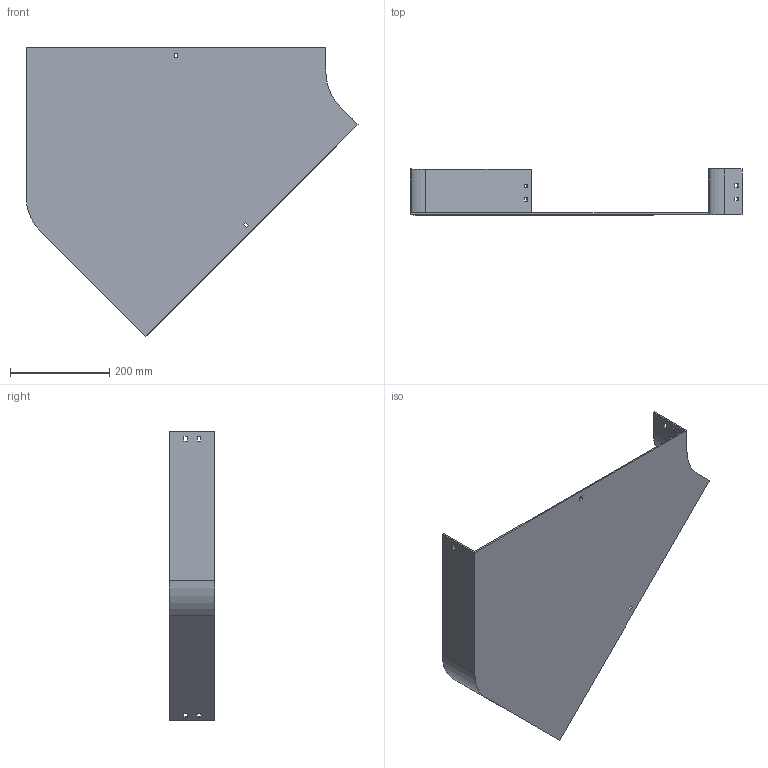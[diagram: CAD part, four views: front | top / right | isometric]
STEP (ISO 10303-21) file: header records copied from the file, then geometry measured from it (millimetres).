
FILE_DESCRIPTION (( 'STEP AP214' ), '1' );
FILE_NAME ('11B1I600.step', '2025-02-21T09:39:24', ( '' ), ( '' ), 'SwSTEP 2.0', 'SolidWorks 2023', '' );
FILE_SCHEMA (( 'AUTOMOTIVE_DESIGN' ));
Length unit declared in the file: millimetre
Products named in the file (1): 11B1I600
Bounding box: 668.64 x 92.5 x 583.16 mm (x, y, z)
Volume: 1180146.6 mm3; surface area: 684013.6 mm2
Topology: 1 solids, 1 shells, 58 faces, 168 edges, 112 vertices
Faces by surface type: plane 54, cylinder 4
Entity records: 1943 total; most frequent: CARTESIAN_POINT 339, ORIENTED_EDGE 336, DIRECTION 294, EDGE_CURVE 168, LINE 160, VECTOR 160, VERTEX_POINT 112, EDGE_LOOP 78
